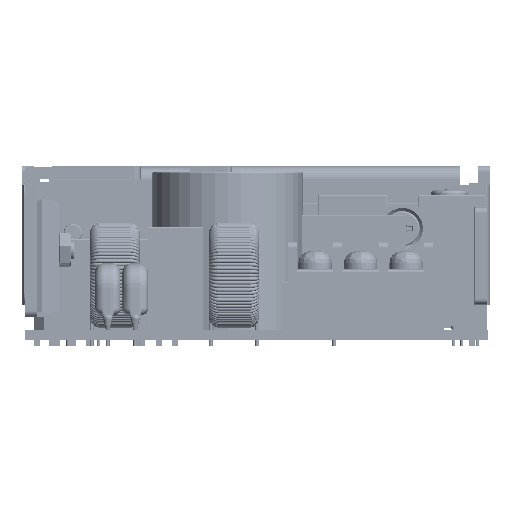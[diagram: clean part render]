
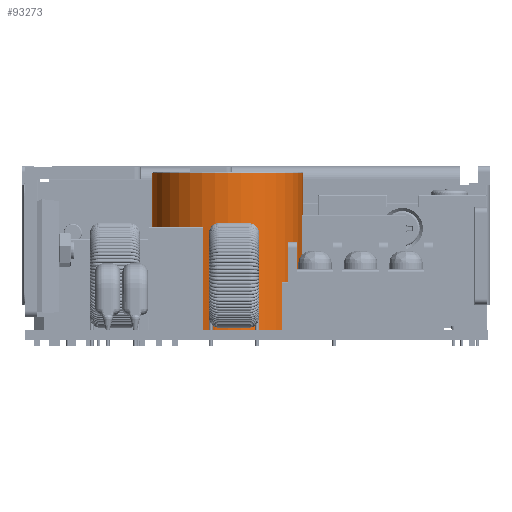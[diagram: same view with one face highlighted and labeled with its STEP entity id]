
A CAD part, left-side view. The second image highlights one B-rep face of the part: STEP entity #93273.
In plain terms, the highlighted cylindrical face has radius 12.396 mm (diameter 24.791 mm), a full revolution.
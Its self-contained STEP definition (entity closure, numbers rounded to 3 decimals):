
#3430=FACE_BOUND($,#15933,.T.);
#8690=FACE_OUTER_BOUND($,#15932,.T.);
#15932=EDGE_LOOP($,(#60224));
#15933=EDGE_LOOP($,(#60225));
#31741=CIRCLE($,#100690,12.396);
#31742=CIRCLE($,#100692,12.396);
#38981=VERTEX_POINT($,#150022);
#38982=VERTEX_POINT($,#150025);
#46044=EDGE_CURVE($,#38981,#38981,#31741,.T.);
#46045=EDGE_CURVE($,#38982,#38982,#31742,.T.);
#60224=ORIENTED_EDGE($,*,*,#46045,.F.);
#60225=ORIENTED_EDGE($,*,*,#46044,.F.);
#90371=CYLINDRICAL_SURFACE($,#100691,12.396);
#93273=ADVANCED_FACE($,(#8690,#3430),#90371,.T.);
#100690=AXIS2_PLACEMENT_3D($,#150023,#116054,#116055);
#100691=AXIS2_PLACEMENT_3D($,#150024,#116056,#116057);
#100692=AXIS2_PLACEMENT_3D($,#150026,#116058,#116059);
#116054=DIRECTION('center_axis',(0.,0.,1.));
#116055=DIRECTION('ref_axis',(-1.,0.,0.));
#116056=DIRECTION('center_axis',(0.,0.,1.));
#116057=DIRECTION('ref_axis',(-1.,0.,0.));
#116058=DIRECTION('center_axis',(0.,0.,-1.));
#116059=DIRECTION('ref_axis',(-1.,0.,0.));
#150022=CARTESIAN_POINT('',(47.832,42.874,27.4));
#150023=CARTESIAN_POINT('Origin',(35.437,42.874,27.4));
#150024=CARTESIAN_POINT('Origin',(35.437,42.874,1.6));
#150025=CARTESIAN_POINT('',(47.832,42.874,1.6));
#150026=CARTESIAN_POINT('Origin',(35.437,42.874,1.6));
